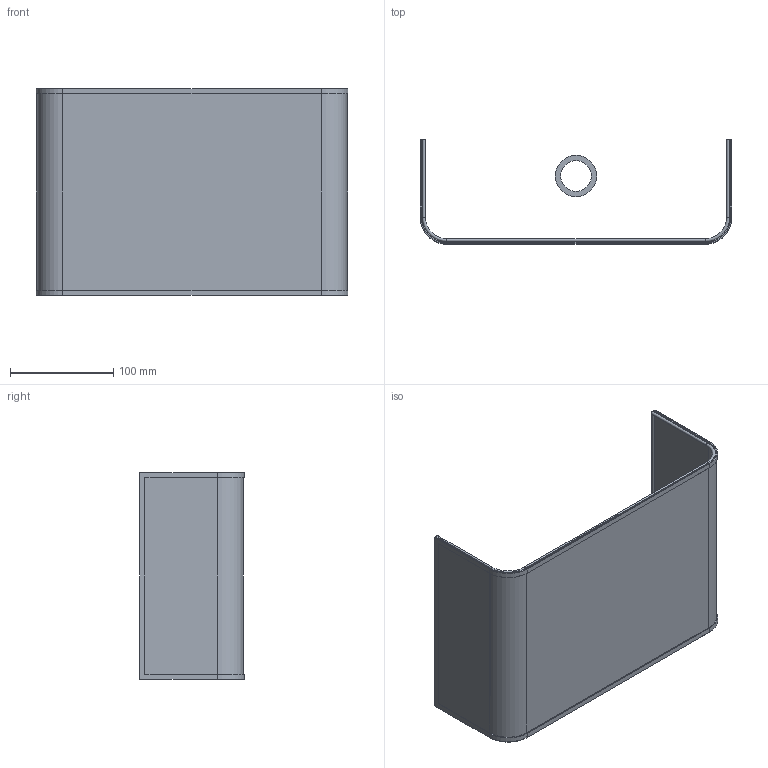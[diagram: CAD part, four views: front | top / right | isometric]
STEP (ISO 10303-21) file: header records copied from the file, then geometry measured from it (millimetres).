
FILE_DESCRIPTION(/* description */ ('Unknown'),/* implementation_level */ '2;1');
FILE_NAME(/* name */ 'LIVING 3D',/* time_stamp */ '2020-11-12T16:31:46+01:00',/* author */ ('Unknown'),/* organization */ ('Unknown'),/* preprocessor_version */ 'ST-DEVELOPER v16.7',/* originating_system */ 'Solid Edge',/* authorisation */ 'Unknown');
FILE_SCHEMA (('AUTOMOTIVE_DESIGN {1 0 10303 214 3 1 1}'));
Length unit declared in the file: millimetre
Products named in the file (1): 5010537-28 Paralume Living 300x100H200 E14 Ecrù rif.Oro
Bounding box: 302.2 x 101.1 x 200 mm (x, y, z)
Volume: 112596.4 mm3; surface area: 222307.1 mm2
Topology: 4 solids, 4 shells, 58 faces, 158 edges, 104 vertices
Faces by surface type: plane 32, cylinder 22, torus 4
Full cylindrical faces by diameter (mm): 3 x8, 30 x1, 40 x1
Entity records: 1758 total; most frequent: DIRECTION 306, CARTESIAN_POINT 291, ORIENTED_EDGE 272, EDGE_CURVE 136, AXIS2_PLACEMENT_3D 111, VERTEX_POINT 96, LINE 84, VECTOR 84
